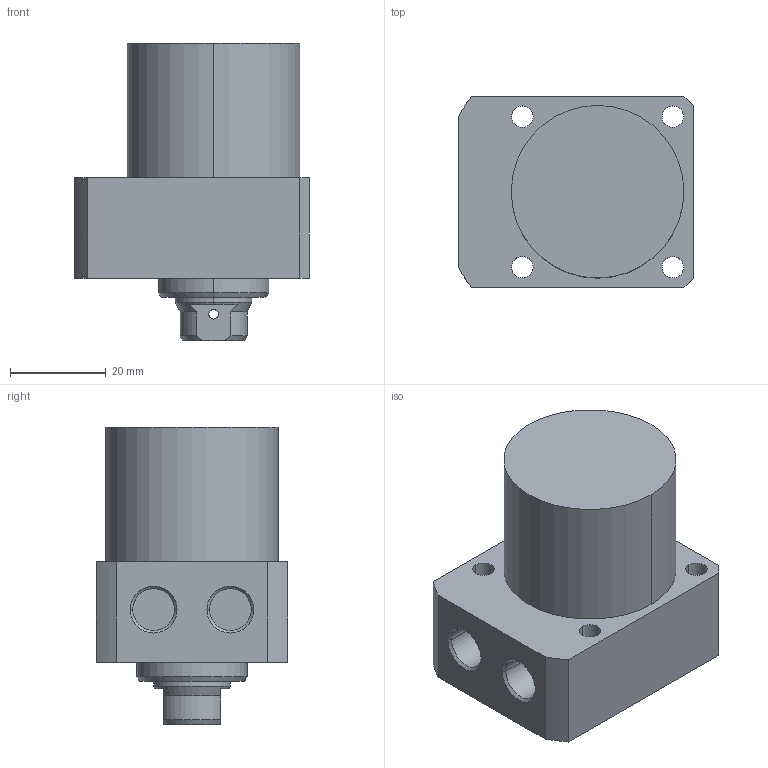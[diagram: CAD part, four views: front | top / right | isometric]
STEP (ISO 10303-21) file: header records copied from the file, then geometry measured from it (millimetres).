
FILE_DESCRIPTION((' '),'2;1');
FILE_NAME( 'TLLR-036CB-020.STEP.stp', '2025-10-24T16:35:44', (' '), ('--- Datakit www.datakit.com---'), ' Datakit CrossCadWare V2024.1 Dec 21 2023', 'Mastercam 2025', ' ');
FILE_SCHEMA(('AUTOMOTIVE_DESIGN { 1 0 10303 214 1 1 1 1 }'));
Length unit declared in the file: millimetre
Products named in the file (1): TLLR-036CB-020
Bounding box: 49 x 40 x 62 mm (x, y, z)
Volume: 69181.9 mm3; surface area: 13279.1 mm2
Topology: 1 solids, 1 shells, 65 faces, 192 edges, 133 vertices
Faces by surface type: cylinder 32, plane 19, cone 14
Entity records: 2878 total; most frequent: CARTESIAN_POINT 1013, DIRECTION 410, ORIENTED_EDGE 380, EDGE_CURVE 190, AXIS2_PLACEMENT_3D 170, VERTEX_POINT 133, CIRCLE 104, EDGE_LOOP 83
